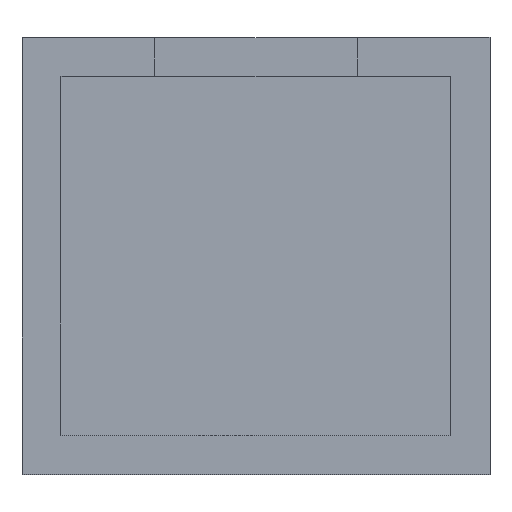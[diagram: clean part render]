
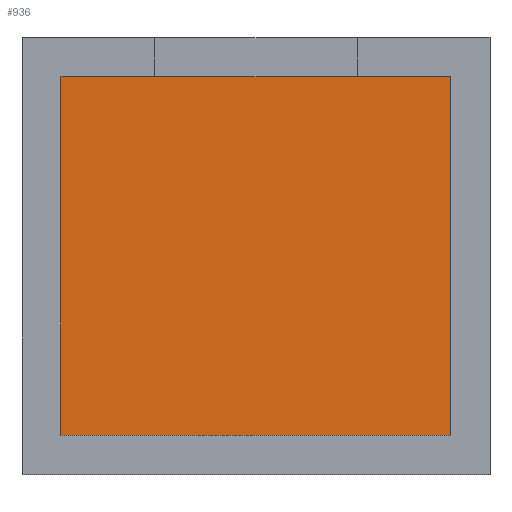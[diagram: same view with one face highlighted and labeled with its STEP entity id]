
A CAD part, top view. The second image highlights one B-rep face of the part: STEP entity #936.
In plain terms, the highlighted planar face has unit normal (0, 0, 1).
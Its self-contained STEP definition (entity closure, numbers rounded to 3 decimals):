
#329 = PLANE('',#330);
#330 = AXIS2_PLACEMENT_3D('',#331,#332,#333);
#331 = CARTESIAN_POINT('',(83.5,13.5,13.));
#332 = DIRECTION('',(0.,1.,0.));
#333 = DIRECTION('',(0.,0.,1.));
#355 = PLANE('',#356);
#356 = AXIS2_PLACEMENT_3D('',#357,#358,#359);
#357 = CARTESIAN_POINT('',(108.5,-9.5,13.));
#358 = DIRECTION('',(1.,0.,0.));
#359 = DIRECTION('',(0.,0.,1.));
#381 = PLANE('',#382);
#382 = AXIS2_PLACEMENT_3D('',#383,#384,#385);
#383 = CARTESIAN_POINT('',(83.5,-9.5,13.));
#384 = DIRECTION('',(0.,1.,0.));
#385 = DIRECTION('',(0.,0.,1.));
#407 = PLANE('',#408);
#408 = AXIS2_PLACEMENT_3D('',#409,#410,#411);
#409 = CARTESIAN_POINT('',(83.5,-9.5,13.));
#410 = DIRECTION('',(1.,0.,0.));
#411 = DIRECTION('',(0.,0.,1.));
#664 = VERTEX_POINT('',#665);
#665 = CARTESIAN_POINT('',(108.5,13.5,13.));
#686 = EDGE_CURVE('',#687,#664,#689,.T.);
#687 = VERTEX_POINT('',#688);
#688 = CARTESIAN_POINT('',(83.5,13.5,13.));
#689 = SURFACE_CURVE('',#690,(#694,#701),.PCURVE_S1.);
#690 = LINE('',#691,#692);
#691 = CARTESIAN_POINT('',(83.5,13.5,13.));
#692 = VECTOR('',#693,1.);
#693 = DIRECTION('',(1.,0.,0.));
#694 = PCURVE('',#329,#695);
#695 = DEFINITIONAL_REPRESENTATION('',(#696),#700);
#696 = LINE('',#697,#698);
#697 = CARTESIAN_POINT('',(0.,0.));
#698 = VECTOR('',#699,1.);
#699 = DIRECTION('',(0.,1.));
#700 = ( GEOMETRIC_REPRESENTATION_CONTEXT(2) 
PARAMETRIC_REPRESENTATION_CONTEXT() REPRESENTATION_CONTEXT('2D SPACE',''
  ) );
#701 = PCURVE('',#702,#707);
#702 = PLANE('',#703);
#703 = AXIS2_PLACEMENT_3D('',#704,#705,#706);
#704 = CARTESIAN_POINT('',(83.5,-9.5,13.));
#705 = DIRECTION('',(0.,0.,1.));
#706 = DIRECTION('',(1.,0.,0.));
#707 = DEFINITIONAL_REPRESENTATION('',(#708),#712);
#708 = LINE('',#709,#710);
#709 = CARTESIAN_POINT('',(0.,23.));
#710 = VECTOR('',#711,1.);
#711 = DIRECTION('',(1.,0.));
#712 = ( GEOMETRIC_REPRESENTATION_CONTEXT(2) 
PARAMETRIC_REPRESENTATION_CONTEXT() REPRESENTATION_CONTEXT('2D SPACE',''
  ) );
#782 = VERTEX_POINT('',#783);
#783 = CARTESIAN_POINT('',(83.5,-9.5,13.));
#804 = EDGE_CURVE('',#782,#687,#805,.T.);
#805 = SURFACE_CURVE('',#806,(#810,#817),.PCURVE_S1.);
#806 = LINE('',#807,#808);
#807 = CARTESIAN_POINT('',(83.5,-9.5,13.));
#808 = VECTOR('',#809,1.);
#809 = DIRECTION('',(0.,1.,0.));
#810 = PCURVE('',#407,#811);
#811 = DEFINITIONAL_REPRESENTATION('',(#812),#816);
#812 = LINE('',#813,#814);
#813 = CARTESIAN_POINT('',(0.,0.));
#814 = VECTOR('',#815,1.);
#815 = DIRECTION('',(0.,-1.));
#816 = ( GEOMETRIC_REPRESENTATION_CONTEXT(2) 
PARAMETRIC_REPRESENTATION_CONTEXT() REPRESENTATION_CONTEXT('2D SPACE',''
  ) );
#817 = PCURVE('',#702,#818);
#818 = DEFINITIONAL_REPRESENTATION('',(#819),#823);
#819 = LINE('',#820,#821);
#820 = CARTESIAN_POINT('',(0.,0.));
#821 = VECTOR('',#822,1.);
#822 = DIRECTION('',(0.,1.));
#823 = ( GEOMETRIC_REPRESENTATION_CONTEXT(2) 
PARAMETRIC_REPRESENTATION_CONTEXT() REPRESENTATION_CONTEXT('2D SPACE',''
  ) );
#831 = VERTEX_POINT('',#832);
#832 = CARTESIAN_POINT('',(108.5,-9.5,13.));
#853 = EDGE_CURVE('',#782,#831,#854,.T.);
#854 = SURFACE_CURVE('',#855,(#859,#866),.PCURVE_S1.);
#855 = LINE('',#856,#857);
#856 = CARTESIAN_POINT('',(83.5,-9.5,13.));
#857 = VECTOR('',#858,1.);
#858 = DIRECTION('',(1.,0.,0.));
#859 = PCURVE('',#381,#860);
#860 = DEFINITIONAL_REPRESENTATION('',(#861),#865);
#861 = LINE('',#862,#863);
#862 = CARTESIAN_POINT('',(0.,0.));
#863 = VECTOR('',#864,1.);
#864 = DIRECTION('',(0.,1.));
#865 = ( GEOMETRIC_REPRESENTATION_CONTEXT(2) 
PARAMETRIC_REPRESENTATION_CONTEXT() REPRESENTATION_CONTEXT('2D SPACE',''
  ) );
#866 = PCURVE('',#702,#867);
#867 = DEFINITIONAL_REPRESENTATION('',(#868),#872);
#868 = LINE('',#869,#870);
#869 = CARTESIAN_POINT('',(0.,0.));
#870 = VECTOR('',#871,1.);
#871 = DIRECTION('',(1.,0.));
#872 = ( GEOMETRIC_REPRESENTATION_CONTEXT(2) 
PARAMETRIC_REPRESENTATION_CONTEXT() REPRESENTATION_CONTEXT('2D SPACE',''
  ) );
#880 = EDGE_CURVE('',#831,#664,#881,.T.);
#881 = SURFACE_CURVE('',#882,(#886,#893),.PCURVE_S1.);
#882 = LINE('',#883,#884);
#883 = CARTESIAN_POINT('',(108.5,-9.5,13.));
#884 = VECTOR('',#885,1.);
#885 = DIRECTION('',(0.,1.,0.));
#886 = PCURVE('',#355,#887);
#887 = DEFINITIONAL_REPRESENTATION('',(#888),#892);
#888 = LINE('',#889,#890);
#889 = CARTESIAN_POINT('',(0.,0.));
#890 = VECTOR('',#891,1.);
#891 = DIRECTION('',(0.,-1.));
#892 = ( GEOMETRIC_REPRESENTATION_CONTEXT(2) 
PARAMETRIC_REPRESENTATION_CONTEXT() REPRESENTATION_CONTEXT('2D SPACE',''
  ) );
#893 = PCURVE('',#702,#894);
#894 = DEFINITIONAL_REPRESENTATION('',(#895),#899);
#895 = LINE('',#896,#897);
#896 = CARTESIAN_POINT('',(25.,0.));
#897 = VECTOR('',#898,1.);
#898 = DIRECTION('',(0.,1.));
#899 = ( GEOMETRIC_REPRESENTATION_CONTEXT(2) 
PARAMETRIC_REPRESENTATION_CONTEXT() REPRESENTATION_CONTEXT('2D SPACE',''
  ) );
#936 = ADVANCED_FACE('',(#937),#702,.T.);
#937 = FACE_BOUND('',#938,.T.);
#938 = EDGE_LOOP('',(#939,#940,#941,#942));
#939 = ORIENTED_EDGE('',*,*,#804,.F.);
#940 = ORIENTED_EDGE('',*,*,#853,.T.);
#941 = ORIENTED_EDGE('',*,*,#880,.T.);
#942 = ORIENTED_EDGE('',*,*,#686,.F.);
